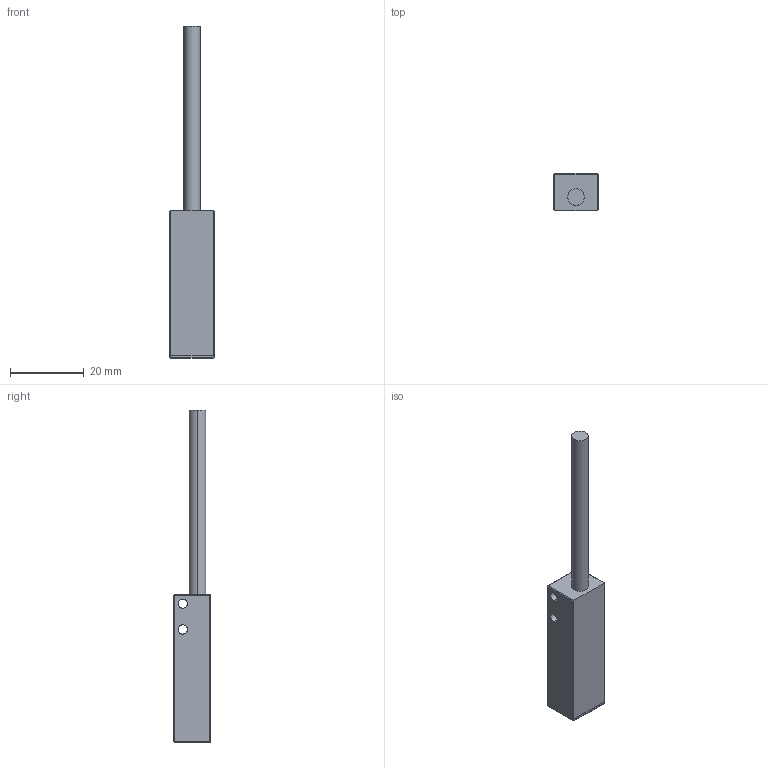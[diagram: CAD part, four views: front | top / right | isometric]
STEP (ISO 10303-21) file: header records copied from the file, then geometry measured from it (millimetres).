
FILE_DESCRIPTION (( 'STEP AP203' ), '1' );
FILE_NAME ('TMLS_mini_D.STEP', '2019-02-10T20:16:52', ( '' ), ( '' ), 'SwSTEP 2.0', 'SolidWorks 2014', '' );
FILE_SCHEMA (( 'CONFIG_CONTROL_DESIGN' ));
Length unit declared in the file: millimetre
Products named in the file (4): víèko mini TMLS 2; krabièka mini TMLS 2; TMLS_mini_D; D璱2
Assembly tree (3 placements, depth 2):
  TMLS_mini_D
    krabièka mini TMLS 2
    víèko mini TMLS 2
    D璱2
Bounding box: 12 x 10 x 90 mm (x, y, z)
Volume: 5000.8 mm3; surface area: 3580.2 mm2
Topology: 3 solids, 3 shells, 55 faces, 116 edges, 62 vertices
Faces by surface type: plane 29, cylinder 22, cone 4
Entity records: 1820 total; most frequent: CARTESIAN_POINT 259, DIRECTION 254, ORIENTED_EDGE 224, EDGE_CURVE 112, AXIS2_PLACEMENT_3D 89, LINE 76, VECTOR 76, EDGE_LOOP 62
